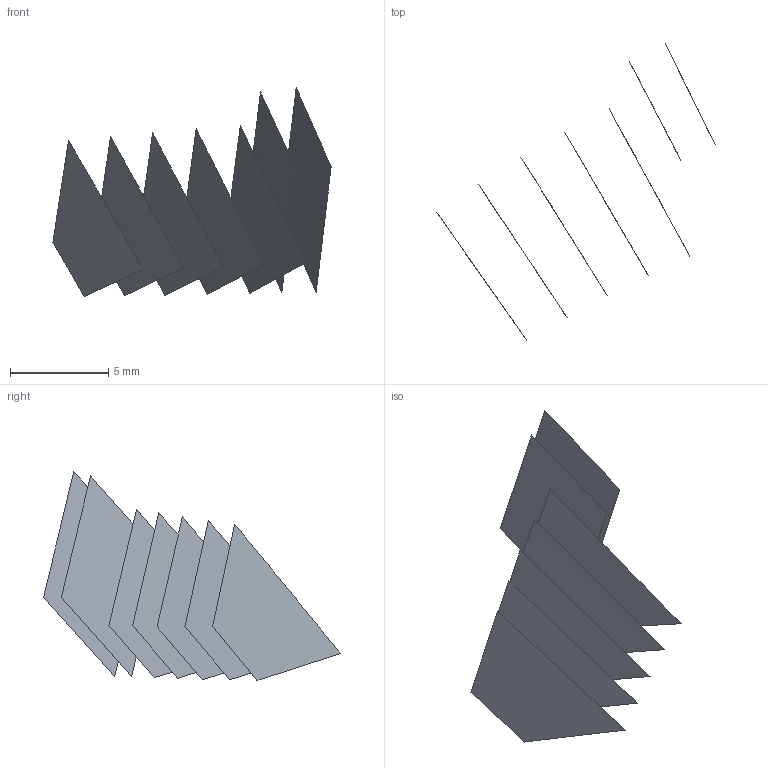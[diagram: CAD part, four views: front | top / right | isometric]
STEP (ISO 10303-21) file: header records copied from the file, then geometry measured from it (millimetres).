
FILE_DESCRIPTION(('FreeCAD Model'),'2;1');
FILE_NAME('Open CASCADE Shape Model','2022-05-21T09:28:01',('FreeCAD'),( 'FreeCAD'),'Open CASCADE STEP processor 7.5','FreeCAD','Unknown');
FILE_SCHEMA(('AUTOMOTIVE_DESIGN { 1 0 10303 214 1 1 1 1 }'));
Length unit declared in the file: millimetre
Products named in the file (8): Open CASCADE STEP translator 7.5 1; Open CASCADE STEP translator 7.5 1.1; Open CASCADE STEP translator 7.5 1.2; Open CASCADE STEP translator 7.5 1.3; Open CASCADE STEP translator 7.5 1.4; Open CASCADE STEP translator 7.5 1.5; Open CASCADE STEP translator 7.5 1.6; Open CASCADE STEP translator 7.5 1.7
Assembly tree (7 placements, depth 2):
  Open CASCADE STEP translator 7.5 1
    Open CASCADE STEP translator 7.5 1.1
    Open CASCADE STEP translator 7.5 1.2
    Open CASCADE STEP translator 7.5 1.3
    Open CASCADE STEP translator 7.5 1.4
    Open CASCADE STEP translator 7.5 1.5
    Open CASCADE STEP translator 7.5 1.6
    Open CASCADE STEP translator 7.5 1.7
Bounding box: 14.17 x 15.12 x 10.64 mm (x, y, z)
Surface area: 232.1 mm2 (no closed solid volume)
Topology: 0 solids, 7 shells, 7 faces, 92 edges, 92 vertices
Faces by surface type: bspline 7
Entity records: 1408 total; most frequent: CARTESIAN_POINT 496, B_SPLINE_CURVE_WITH_KNOTS 184, ORIENTED_EDGE 92, EDGE_CURVE 92, VERTEX_POINT 92, SURFACE_CURVE 92, PCURVE 92, DEFINITIONAL_REPRESENTATION 92
